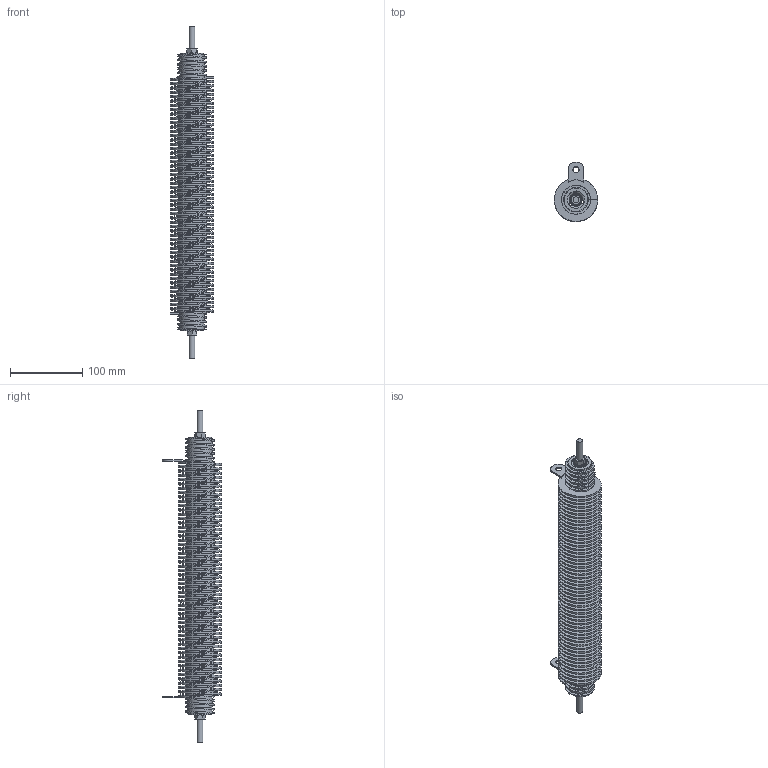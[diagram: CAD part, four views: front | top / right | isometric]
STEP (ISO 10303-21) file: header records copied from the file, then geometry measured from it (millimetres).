
FILE_DESCRIPTION(/* description */ (''),/* implementation_level */ '2;1');
FILE_NAME(/* name */ 'C:\_Vault\Dati\CATALOGO\RNT\RNT TUBO FILETTATO\RNT 1000.stp',/* time_stamp */ '2023-05-16T14:55:02+02:00',/* author */ ('claudio'),/* organization */ ('Fairfild Srl'),/* preprocessor_version */ 'ST-DEVELOPER v18.1',/* originating_system */ 'Autodesk Inventor 2022',/* authorisation */ '');
FILE_SCHEMA (('AUTOMOTIVE_DESIGN { 1 0 10303 214 3 1 1 }'));
Length unit declared in the file: millimetre
Products named in the file (9): RNT 1000; 70NT26D0403820006P; Spirale 3x12 AISI 304 Ns 54; 84NP70F8M500200000; Tirante M8 L.460; 740070D04000000000; 600008000A29200030; 600008000A25100032; 28M008000A28800000
Assembly tree (13 placements, depth 2):
  RNT 1000
    70NT26D0403820006P
    Spirale 3x12 AISI 304 Ns 54
    84NP70F8M500200000  x2
    Tirante M8 L.460
    740070D04000000000  x2
    600008000A29200030  x2
    600008000A25100032  x2
    28M008000A28800000  x2
Bounding box: 60 x 82.04 x 460 mm (x, y, z)
Volume: 494587.1 mm3; surface area: 376346.8 mm2
Topology: 13 solids, 13 shells, 385 faces, 1075 edges, 708 vertices
Faces by surface type: cylinder 285, plane 52, cone 28, torus 16, bspline 4
Full cylindrical faces by diameter (mm): 5 x6, 6.647 x2, 8 x1, 8.4 x2, 8.5 x2, 8.6 x2, 17 x2, 24 x1, 32.2 x2, 34 x63, 36 x54, 40 x64, 60 x54
Entity records: 32127 total; most frequent: CARTESIAN_POINT 24407, ORIENTED_EDGE 1810, DIRECTION 1140, EDGE_CURVE 905, VERTEX_POINT 599, B_SPLINE_CURVE_WITH_KNOTS 501, AXIS2_PLACEMENT_3D 424, EDGE_LOOP 330
